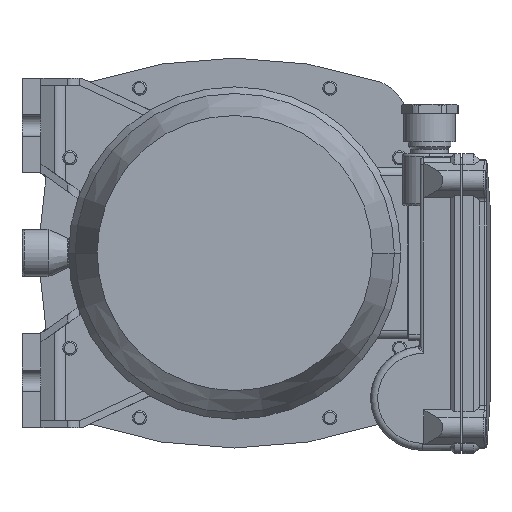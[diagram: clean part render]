
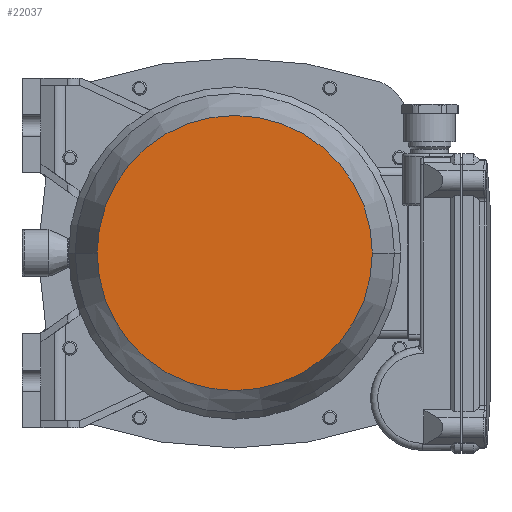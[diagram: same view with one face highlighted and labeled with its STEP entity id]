
A CAD part, front view. The second image highlights one B-rep face of the part: STEP entity #22037.
In plain terms, the highlighted planar face has unit normal (0, -1, 0) as drawn and (1, 0, 0) by its records, which use the part's own axes.
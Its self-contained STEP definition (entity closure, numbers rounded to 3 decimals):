
#16154=CARTESIAN_POINT('',(181.,0.,0.));
#16155=DIRECTION('',(-1.,0.,0.));
#16156=DIRECTION('',(0.,1.,0.));
#16157=AXIS2_PLACEMENT_3D('',#16154,#16155,#16156);
#16162=CARTESIAN_POINT('',(181.,0.,0.));
#16163=DIRECTION('',(1.,0.,0.));
#16164=DIRECTION('',(0.,1.,0.));
#16165=AXIS2_PLACEMENT_3D('',#16162,#16163,#16164);
#17441=CARTESIAN_POINT('',(181.,58.207,0.));
#17443=VERTEX_POINT('',#17441);
#17451=CARTESIAN_POINT('',(181.,-58.207,0.));
#17453=VERTEX_POINT('',#17451);
#22028=CARTESIAN_POINT('',(181.,0.,0.));
#22029=DIRECTION('',(1.,0.,0.));
#22030=DIRECTION('',(0.,-1.,0.));
#22031=AXIS2_PLACEMENT_3D('',#22028,#22029,#22030);
#22032=PLANE('',#22031);
#22033=ORIENTED_EDGE('',*,*,#22010,.T.);
#22034=ORIENTED_EDGE('',*,*,#22021,.F.);
#22035=EDGE_LOOP('',(#22033,#22034));
#22036=FACE_OUTER_BOUND('',#22035,.F.);
#16158=CIRCLE('',#16157,58.207);
#16166=CIRCLE('',#16165,58.207);
#22010=EDGE_CURVE('',#17443,#17453,#16158,.T.);
#22021=EDGE_CURVE('',#17443,#17453,#16166,.T.);
#22037=ADVANCED_FACE('',(#22036),#22032,.T.);
